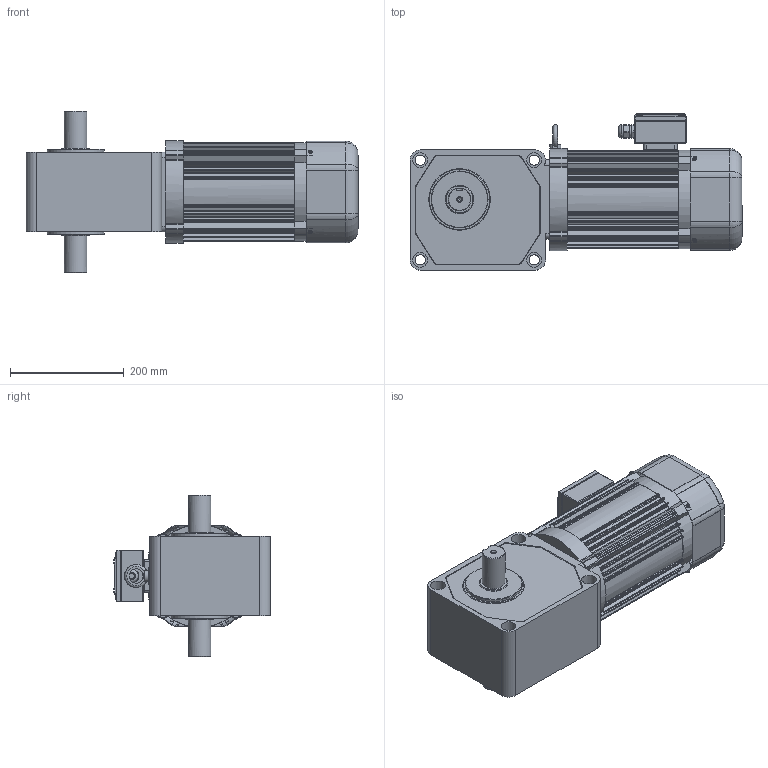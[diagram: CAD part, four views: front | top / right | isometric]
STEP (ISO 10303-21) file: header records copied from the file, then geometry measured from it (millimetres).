
FILE_DESCRIPTION(/* description */ (''),/* implementation_level */ '2;1');
FILE_NAME(/* name */ 'Z:\동력 3D 파일\PCS40B_1.5kW_Brake_3D.stp',/* time_stamp */ '2021-11-09T13:39:11+09:00',/* author */ ('jaebok'),/* organization */ (''),/* preprocessor_version */ 'ST-DEVELOPER v18.1',/* originating_system */ 'Autodesk Inventor 2022',/* authorisation */ '');
FILE_SCHEMA (('AUTOMOTIVE_DESIGN { 1 0 10303 214 3 1 1 }'));
Length unit declared in the file: millimetre
Products named in the file (1): 부품74
Bounding box: 582.8 x 274.5 x 284 mm (x, y, z)
Volume: 10130640.9 mm3; surface area: 912138.9 mm2
Topology: 1 solids, 25 shells, 1374 faces, 3651 edges, 2359 vertices
Faces by surface type: plane 665, cylinder 587, cone 56, torus 36, sphere 20, bspline 10
Full cylindrical faces by diameter (mm): 3.25 x1, 3.6 x4, 4 x22, 4.917 x4, 5 x13, 6 x5, 6.647 x2, 7 x12, 8 x1, 8.8 x1, 10 x3, 12.5 x1, 15 x1, 18 x4, 20 x2, 21 x1, 23.6 x1, 25 x2, 26 x4, 36 x1, 40 x2, 100 x2, 156 x2, 160 x2, 161 x1, 165 x1, 165.4 x2, 168 x4
Entity records: 45597 total; most frequent: CARTESIAN_POINT 9353, DIRECTION 7590, ORIENTED_EDGE 7240, EDGE_CURVE 3620, AXIS2_PLACEMENT_3D 2820, VERTEX_POINT 2358, LINE 1950, VECTOR 1950
